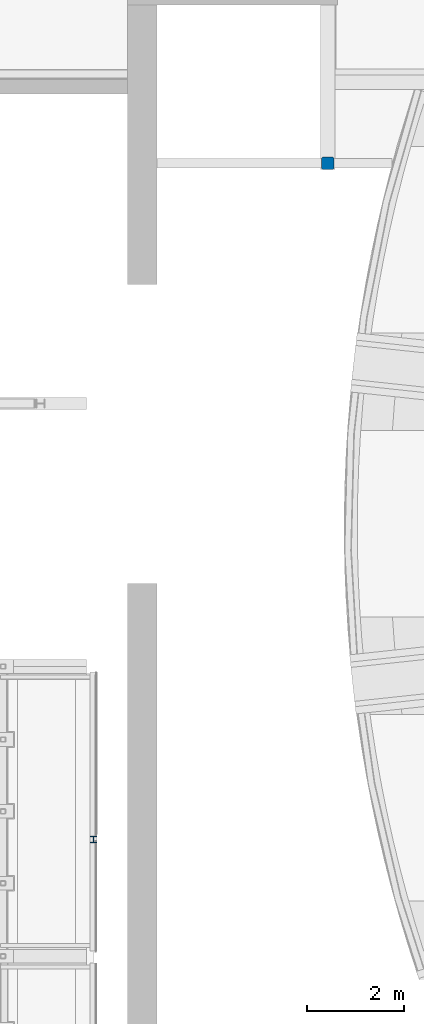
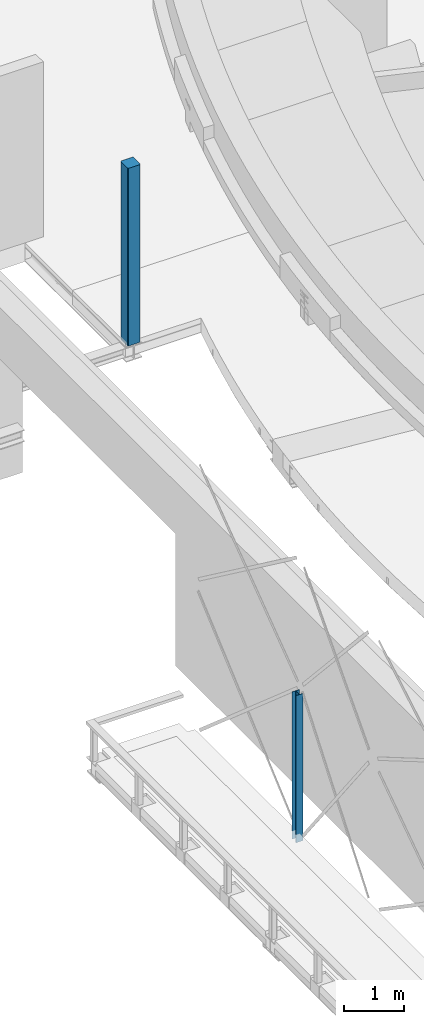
# One storey, part 4 of 68: 2 columns.
"""IFC2X3 building model written with IfcOpenShell, lengths in millimetres."""

from ifc_helpers import new_model, entity, si_unit, converted_unit, derived_unit, direction, frame, frame_2d, origin, place, context, subcontext, project, spatial, polyline, circle_curve, parameter, trimmed, segment, composite_curve, i_section, outline, extrude, source, transform, mapped, material, material_list, type_object, type_shapes, element, save


model = new_model("IFC2X3")

# Units and contexts
model_context = context("Model", 3, precision=0.01, world=origin(), true_north=direction((6.12303176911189e-17, 1.0)))
body_context = subcontext(model_context, "Body", "Model", "MODEL_VIEW")
ifc_project = project(units=[si_unit("LENGTHUNIT", "METRE", prefix="MILLI"), si_unit("AREAUNIT", "SQUARE_METRE", prefix="MILLI"), si_unit("VOLUMEUNIT", "CUBIC_METRE"), converted_unit("PLANEANGLEUNIT", "DEGREE", entity("IfcRatioMeasure", 0.0174532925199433), si_unit("PLANEANGLEUNIT", "RADIAN"), dimensions=[0, 0, 0, 0, 0, 0, 0]), si_unit("MASSUNIT", "GRAM", prefix="KILO"), derived_unit("MASSDENSITYUNIT", [(si_unit("MASSUNIT", "GRAM", prefix="KILO"), 1), (si_unit("LENGTHUNIT", "METRE"), -3)]), derived_unit("MOMENTOFINERTIAUNIT", [(si_unit("LENGTHUNIT", "METRE"), 4)]), si_unit("TIMEUNIT", "SECOND"), si_unit("FREQUENCYUNIT", "HERTZ"), si_unit("THERMODYNAMICTEMPERATUREUNIT", "DEGREE_CELSIUS"), derived_unit("THERMALTRANSMITTANCEUNIT", [(si_unit("MASSUNIT", "GRAM", prefix="KILO"), 1), (si_unit("THERMODYNAMICTEMPERATUREUNIT", "KELVIN"), -1), (si_unit("TIMEUNIT", "SECOND"), -3)]), derived_unit("VOLUMETRICFLOWRATEUNIT", [(si_unit("LENGTHUNIT", "METRE"), 3), (si_unit("TIMEUNIT", "SECOND"), -1)]), si_unit("ELECTRICCURRENTUNIT", "AMPERE"), si_unit("ELECTRICVOLTAGEUNIT", "VOLT"), si_unit("POWERUNIT", "WATT"), si_unit("FORCEUNIT", "NEWTON", prefix="KILO"), si_unit("ILLUMINANCEUNIT", "LUX"), si_unit("LUMINOUSFLUXUNIT", "LUMEN"), si_unit("LUMINOUSINTENSITYUNIT", "CANDELA"), derived_unit("USERDEFINED", [(si_unit("MASSUNIT", "GRAM", prefix="KILO"), -1), (si_unit("LENGTHUNIT", "METRE"), -2), (si_unit("TIMEUNIT", "SECOND"), 3), (si_unit("LUMINOUSFLUXUNIT", "LUMEN"), 1)]), derived_unit("LINEARVELOCITYUNIT", [(si_unit("LENGTHUNIT", "METRE"), 1), (si_unit("TIMEUNIT", "SECOND"), -1)]), si_unit("PRESSUREUNIT", "PASCAL"), derived_unit("USERDEFINED", [(si_unit("LENGTHUNIT", "METRE"), -2), (si_unit("MASSUNIT", "GRAM", prefix="KILO"), 1), (si_unit("TIMEUNIT", "SECOND"), -2)]), derived_unit("LINEARFORCEUNIT", [(si_unit("MASSUNIT", "GRAM", prefix="KILO"), 1), (si_unit("LENGTHUNIT", "METRE"), 1), (si_unit("TIMEUNIT", "SECOND"), -2), (si_unit("LENGTHUNIT", "METRE"), -1)]), derived_unit("PLANARFORCEUNIT", [(si_unit("MASSUNIT", "GRAM", prefix="KILO"), 1), (si_unit("LENGTHUNIT", "METRE"), 1), (si_unit("TIMEUNIT", "SECOND"), -2), (si_unit("LENGTHUNIT", "METRE"), -2)])], contexts=[model_context])

# Site, building, storey
site_placement = place(None, origin())
site = spatial("IfcSite", under=ifc_project, at=site_placement, Name="Theater aan de Parade", CompositionType="ELEMENT")
building_placement = place(site_placement, origin())
building = spatial("IfcBuilding", under=site, at=building_placement, Name="Theater aan de Parade", CompositionType="ELEMENT")
storey_placement = place(building_placement, frame((0.0, 0.0, 8750.0)))
storey = spatial("IfcBuildingStorey", under=building, at=storey_placement, Name="02 tweede verdieping", CompositionType="ELEMENT", Elevation=8750.0)

# Columns
ifc_material_1 = material(Name="00_PBT_MAT_staal_S355")
column_type_1 = type_object("IfcColumnType", Name="28_PBT_SC_staal_H-profiel:S355_HE140A", PredefinedType="COLUMN", material=ifc_material_1)
shared_shape_1 = source(origin(), body_context, "Body", "SweptSolid", [
    extrude(i_section(OverallWidth=139.999999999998, OverallDepth=132.999999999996, WebThickness=5.50000000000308, FlangeThickness=8.49999999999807, FilletRadius=12.0000000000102, at=frame_2d((-2.1600499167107e-12, 6.49436060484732e-12), x_axis=(0.0, 1.0))), frame((36153.8581300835, 25963.2922984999, 8583.0), z_axis=(0.0, 0.0, 1.0), x_axis=(0.0, -1.0, 0.0)), (0.0, 0.0, 1.0), 2984.0),
])
type_shapes(column_type_1, [shared_shape_1])
column_1_placement = place(storey_placement, frame((0.0, 0.0, -8750.0)))
element("IfcColumn", 1, at=column_1_placement, inside=storey, type_object=column_type_1, material=ifc_material_1, Name="28_PBT_SC_staal_H-profiel:S355_HE140A", ObjectType="28_PBT_SC_staal_H-profiel:S355_HE140A", context=body_context, shape_type="MappedRepresentation", body=[
    mapped(shared_shape_1, transform((0.0, 0.0, 0.0), scale=1.0)),
])
ifc_material_2 = material(Name="00_PBT_MAT_beton t.p.g._C40/50")
ifc_material_list_1 = material_list([ifc_material_2, ifc_material_1])
ifc_material_list_2 = material_list([ifc_material_2, ifc_material_1])
column_type_2 = type_object("IfcColumnType", Name="28_PBT_SC_staal_koker:S355_K250x250x20_GB_C40/50", PredefinedType="COLUMN", material=ifc_material_list_2)
shared_shape_2 = source(origin(), body_context, "Body", "SweptSolid", [
    extrude(outline(composite_curve([segment(polyline([(-85.0, -105.0), (85.0, -105.0)]), True, "CONTINUOUS"), segment(trimmed(circle_curve(frame_2d((85.0, -85.0), x_axis=(-1.0, 0.0)), 20.0), [parameter(90.0000000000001)], [parameter(180.0)], True, "PARAMETER"), True, "CONTINUOUS"), segment(polyline([(105.0, -85.0), (105.0, 85.0)]), True, "CONTINUOUS"), segment(trimmed(circle_curve(frame_2d((85.0, 85.0), x_axis=(-1.0, 0.0)), 20.0), [parameter(180.0)], [parameter(269.999999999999)], True, "PARAMETER"), True, "CONTINUOUS"), segment(polyline([(85.0, 105.0), (-85.0, 105.0)]), True, "CONTINUOUS"), segment(trimmed(circle_curve(frame_2d((-85.0, 85.0), x_axis=(-1.0, 0.0)), 20.0), [parameter(270.0)], [parameter(1.01777749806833e-13)], True, "PARAMETER"), True, "CONTINUOUS"), segment(polyline([(-105.0, 85.0), (-105.0, -85.0)]), True, "CONTINUOUS"), segment(trimmed(circle_curve(frame_2d((-85.0, -85.0), x_axis=(-1.0, 0.0)), 20.0), [parameter(0.0)], [parameter(90.0000000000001)], True, "PARAMETER"), True, "CONTINUOUS")], self_intersect=False)), frame((40963.8581275, 39850.0, 8610.0)), (0.0, 0.0, 1.0), 3605.0),
    extrude(outline(composite_curve([segment(trimmed(circle_curve(frame_2d((-100.0, -100.0), x_axis=(1.0, 0.0)), 25.0), [parameter(180.0)], [parameter(270.0)], True, "PARAMETER"), True, "CONTINUOUS"), segment(polyline([(-100.0, -125.0), (100.0, -125.0)]), True, "CONTINUOUS"), segment(trimmed(circle_curve(frame_2d((100.0, -100.0), x_axis=(1.0, 0.0)), 25.0), [parameter(270.0)], [parameter(0.0)], True, "PARAMETER"), True, "CONTINUOUS"), segment(polyline([(125.0, -100.0), (125.0, 100.0)]), True, "CONTINUOUS"), segment(trimmed(circle_curve(frame_2d((100.0, 100.0), x_axis=(1.0, 0.0)), 25.0), [parameter(3.56222124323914e-13)], [parameter(90.0000000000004)], True, "PARAMETER"), True, "CONTINUOUS"), segment(polyline([(100.0, 125.0), (-100.0, 125.0)]), True, "CONTINUOUS"), segment(trimmed(circle_curve(frame_2d((-100.0, 100.0), x_axis=(1.0, 0.0)), 25.0), [parameter(90.0)], [parameter(180.0)], True, "PARAMETER"), True, "CONTINUOUS"), segment(polyline([(-125.0, 100.0), (-125.0, -100.0)]), True, "CONTINUOUS")], self_intersect=False), holes=[composite_curve([segment(trimmed(circle_curve(frame_2d((85.0, 85.0), x_axis=(1.0, 0.0)), 20.0), [parameter(0.0)], [parameter(90.0000000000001)], True, "PARAMETER"), False, "CONTINUOUS"), segment(polyline([(105.0, 85.0), (105.0, -85.0)]), True, "CONTINUOUS"), segment(trimmed(circle_curve(frame_2d((85.0, -85.0), x_axis=(1.0, 0.0)), 20.0), [parameter(270.0)], [parameter(360.0)], True, "PARAMETER"), False, "CONTINUOUS"), segment(polyline([(85.0, -105.0), (-85.0, -105.0)]), True, "CONTINUOUS"), segment(trimmed(circle_curve(frame_2d((-85.0, -85.0), x_axis=(1.0, 0.0)), 20.0), [parameter(180.0)], [parameter(270.0)], True, "PARAMETER"), False, "CONTINUOUS"), segment(polyline([(-105.0, -85.0), (-105.0, 85.0)]), True, "CONTINUOUS"), segment(trimmed(circle_curve(frame_2d((-85.0, 85.0), x_axis=(1.0, 0.0)), 20.0), [parameter(89.9999999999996)], [parameter(180.0)], True, "PARAMETER"), False, "CONTINUOUS"), segment(polyline([(-85.0, 105.0), (85.0, 105.0)]), True, "CONTINUOUS")], self_intersect=False)]), frame((40963.8581275, 39850.0, 8610.0)), (0.0, 0.0, 1.0), 3605.0),
])
type_shapes(column_type_2, [shared_shape_2])
column_2_placement = place(storey_placement, frame((0.0, 0.0, -8750.0)))
element("IfcColumn", 2, at=column_2_placement, inside=storey, type_object=column_type_2, material=ifc_material_list_1, Name="28_PBT_SC_staal_koker:S355_K250x250x20_GB_C40/50", ObjectType="28_PBT_SC_staal_koker:S355_K250x250x20_GB_C40/50", context=body_context, shape_type="MappedRepresentation", body=[
    mapped(shared_shape_2, transform((0.0, 0.0, 0.0), scale=1.0)),
])

save(model, "model.ifc")
